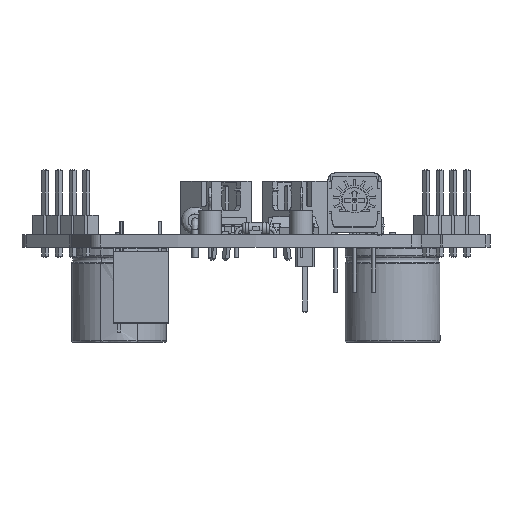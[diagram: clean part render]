
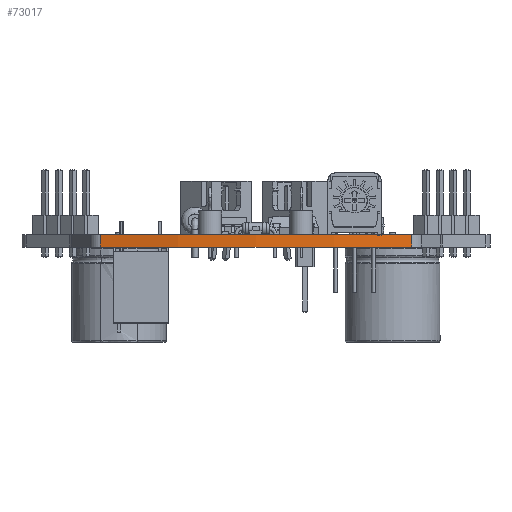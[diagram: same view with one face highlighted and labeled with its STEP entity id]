
A CAD part, left-side view. The second image highlights one B-rep face of the part: STEP entity #73017.
In plain terms, the highlighted cylindrical face has radius 85 mm (diameter 170 mm), a partial arc.
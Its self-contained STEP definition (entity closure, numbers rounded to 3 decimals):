
#67925 = PLANE('',#67926);
#67926 = AXIS2_PLACEMENT_3D('',#67927,#67928,#67929);
#67927 = CARTESIAN_POINT('',(75.31,-115.03,1.6));
#67928 = DIRECTION('',(-0.,-0.,-1.));
#67929 = DIRECTION('',(-1.,0.,0.));
#67979 = PLANE('',#67980);
#67980 = AXIS2_PLACEMENT_3D('',#67981,#67982,#67983);
#67981 = CARTESIAN_POINT('',(75.31,-115.03,0.));
#67982 = DIRECTION('',(-0.,-0.,-1.));
#67983 = DIRECTION('',(-1.,0.,0.));
#68497 = VERTEX_POINT('',#68498);
#68498 = CARTESIAN_POINT('',(47.44,-135.497,0.));
#68517 = CYLINDRICAL_SURFACE('',#68518,2.);
#68518 = AXIS2_PLACEMENT_3D('',#68519,#68520,#68521);
#68519 = CARTESIAN_POINT('',(49.381,-135.015,0.));
#68520 = DIRECTION('',(-0.,-0.,-1.));
#68521 = DIRECTION('',(1.,0.,-0.));
#68529 = EDGE_CURVE('',#68530,#68497,#68532,.T.);
#68530 = VERTEX_POINT('',#68531);
#68531 = CARTESIAN_POINT('',(47.44,-94.564,0.));
#68532 = SURFACE_CURVE('',#68533,(#68538,#68549),.PCURVE_S1.);
#68533 = CIRCLE('',#68534,85.);
#68534 = AXIS2_PLACEMENT_3D('',#68535,#68536,#68537);
#68535 = CARTESIAN_POINT('',(129.939,-115.03,0.));
#68536 = DIRECTION('',(0.,0.,1.));
#68537 = DIRECTION('',(1.,0.,-0.));
#68538 = PCURVE('',#67979,#68539);
#68539 = DEFINITIONAL_REPRESENTATION('',(#68540),#68548);
#68540 = ( BOUNDED_CURVE() B_SPLINE_CURVE(2,(#68541,#68542,#68543,#68544
    ,#68545,#68546,#68547),.UNSPECIFIED.,.T.,.F.) 
B_SPLINE_CURVE_WITH_KNOTS((1,2,2,2,2,1),(-2.094,0.,
    2.094,4.189,6.283,8.378),
.UNSPECIFIED.) CURVE() GEOMETRIC_REPRESENTATION_ITEM() 
RATIONAL_B_SPLINE_CURVE((1.,0.5,1.,0.5,1.,0.5,1.)) REPRESENTATION_ITEM(
  '') );
#68541 = CARTESIAN_POINT('',(-139.629,0.));
#68542 = CARTESIAN_POINT('',(-139.629,147.225));
#68543 = CARTESIAN_POINT('',(-12.129,73.612));
#68544 = CARTESIAN_POINT('',(115.371,0.));
#68545 = CARTESIAN_POINT('',(-12.129,-73.612));
#68546 = CARTESIAN_POINT('',(-139.629,-147.225));
#68547 = CARTESIAN_POINT('',(-139.629,0.));
#68548 = ( GEOMETRIC_REPRESENTATION_CONTEXT(2) 
PARAMETRIC_REPRESENTATION_CONTEXT() REPRESENTATION_CONTEXT('2D SPACE',''
  ) );
#68549 = PCURVE('',#68550,#68555);
#68550 = CYLINDRICAL_SURFACE('',#68551,85.);
#68551 = AXIS2_PLACEMENT_3D('',#68552,#68553,#68554);
#68552 = CARTESIAN_POINT('',(129.939,-115.03,0.));
#68553 = DIRECTION('',(-0.,-0.,-1.));
#68554 = DIRECTION('',(1.,0.,-0.));
#68555 = DEFINITIONAL_REPRESENTATION('',(#68556),#68560);
#68556 = LINE('',#68557,#68558);
#68557 = CARTESIAN_POINT('',(-0.,0.));
#68558 = VECTOR('',#68559,1.);
#68559 = DIRECTION('',(-1.,0.));
#68560 = ( GEOMETRIC_REPRESENTATION_CONTEXT(2) 
PARAMETRIC_REPRESENTATION_CONTEXT() REPRESENTATION_CONTEXT('2D SPACE',''
  ) );
#68583 = CYLINDRICAL_SURFACE('',#68584,2.);
#68584 = AXIS2_PLACEMENT_3D('',#68585,#68586,#68587);
#68585 = CARTESIAN_POINT('',(49.381,-95.046,0.));
#68586 = DIRECTION('',(-0.,-0.,-1.));
#68587 = DIRECTION('',(1.,0.,-0.));
#70702 = VERTEX_POINT('',#70703);
#70703 = CARTESIAN_POINT('',(47.44,-135.497,1.6));
#70729 = EDGE_CURVE('',#70730,#70702,#70732,.T.);
#70730 = VERTEX_POINT('',#70731);
#70731 = CARTESIAN_POINT('',(47.44,-94.564,1.6));
#70732 = SURFACE_CURVE('',#70733,(#70738,#70749),.PCURVE_S1.);
#70733 = CIRCLE('',#70734,85.);
#70734 = AXIS2_PLACEMENT_3D('',#70735,#70736,#70737);
#70735 = CARTESIAN_POINT('',(129.939,-115.03,1.6));
#70736 = DIRECTION('',(0.,0.,1.));
#70737 = DIRECTION('',(1.,0.,-0.));
#70738 = PCURVE('',#67925,#70739);
#70739 = DEFINITIONAL_REPRESENTATION('',(#70740),#70748);
#70740 = ( BOUNDED_CURVE() B_SPLINE_CURVE(2,(#70741,#70742,#70743,#70744
    ,#70745,#70746,#70747),.UNSPECIFIED.,.T.,.F.) 
B_SPLINE_CURVE_WITH_KNOTS((1,2,2,2,2,1),(-2.094,0.,
    2.094,4.189,6.283,8.378),
.UNSPECIFIED.) CURVE() GEOMETRIC_REPRESENTATION_ITEM() 
RATIONAL_B_SPLINE_CURVE((1.,0.5,1.,0.5,1.,0.5,1.)) REPRESENTATION_ITEM(
  '') );
#70741 = CARTESIAN_POINT('',(-139.629,0.));
#70742 = CARTESIAN_POINT('',(-139.629,147.225));
#70743 = CARTESIAN_POINT('',(-12.129,73.612));
#70744 = CARTESIAN_POINT('',(115.371,0.));
#70745 = CARTESIAN_POINT('',(-12.129,-73.612));
#70746 = CARTESIAN_POINT('',(-139.629,-147.225));
#70747 = CARTESIAN_POINT('',(-139.629,0.));
#70748 = ( GEOMETRIC_REPRESENTATION_CONTEXT(2) 
PARAMETRIC_REPRESENTATION_CONTEXT() REPRESENTATION_CONTEXT('2D SPACE',''
  ) );
#70749 = PCURVE('',#68550,#70750);
#70750 = DEFINITIONAL_REPRESENTATION('',(#70751),#70755);
#70751 = LINE('',#70752,#70753);
#70752 = CARTESIAN_POINT('',(-0.,-1.6));
#70753 = VECTOR('',#70754,1.);
#70754 = DIRECTION('',(-1.,0.));
#70755 = ( GEOMETRIC_REPRESENTATION_CONTEXT(2) 
PARAMETRIC_REPRESENTATION_CONTEXT() REPRESENTATION_CONTEXT('2D SPACE',''
  ) );
#72967 = EDGE_CURVE('',#68497,#70702,#72968,.T.);
#72968 = SURFACE_CURVE('',#72969,(#72973,#72980),.PCURVE_S1.);
#72969 = LINE('',#72970,#72971);
#72970 = CARTESIAN_POINT('',(47.44,-135.497,0.));
#72971 = VECTOR('',#72972,1.);
#72972 = DIRECTION('',(0.,0.,1.));
#72973 = PCURVE('',#68517,#72974);
#72974 = DEFINITIONAL_REPRESENTATION('',(#72975),#72979);
#72975 = LINE('',#72976,#72977);
#72976 = CARTESIAN_POINT('',(-3.385,0.));
#72977 = VECTOR('',#72978,1.);
#72978 = DIRECTION('',(-0.,-1.));
#72979 = ( GEOMETRIC_REPRESENTATION_CONTEXT(2) 
PARAMETRIC_REPRESENTATION_CONTEXT() REPRESENTATION_CONTEXT('2D SPACE',''
  ) );
#72980 = PCURVE('',#68550,#72981);
#72981 = DEFINITIONAL_REPRESENTATION('',(#72982),#72986);
#72982 = LINE('',#72983,#72984);
#72983 = CARTESIAN_POINT('',(-3.385,0.));
#72984 = VECTOR('',#72985,1.);
#72985 = DIRECTION('',(-0.,-1.));
#72986 = ( GEOMETRIC_REPRESENTATION_CONTEXT(2) 
PARAMETRIC_REPRESENTATION_CONTEXT() REPRESENTATION_CONTEXT('2D SPACE',''
  ) );
#73017 = ADVANCED_FACE('',(#73018),#68550,.T.);
#73018 = FACE_BOUND('',#73019,.F.);
#73019 = EDGE_LOOP('',(#73020,#73041,#73042,#73043));
#73020 = ORIENTED_EDGE('',*,*,#73021,.T.);
#73021 = EDGE_CURVE('',#68530,#70730,#73022,.T.);
#73022 = SURFACE_CURVE('',#73023,(#73027,#73034),.PCURVE_S1.);
#73023 = LINE('',#73024,#73025);
#73024 = CARTESIAN_POINT('',(47.44,-94.564,0.));
#73025 = VECTOR('',#73026,1.);
#73026 = DIRECTION('',(0.,0.,1.));
#73027 = PCURVE('',#68550,#73028);
#73028 = DEFINITIONAL_REPRESENTATION('',(#73029),#73033);
#73029 = LINE('',#73030,#73031);
#73030 = CARTESIAN_POINT('',(-2.898,0.));
#73031 = VECTOR('',#73032,1.);
#73032 = DIRECTION('',(-0.,-1.));
#73033 = ( GEOMETRIC_REPRESENTATION_CONTEXT(2) 
PARAMETRIC_REPRESENTATION_CONTEXT() REPRESENTATION_CONTEXT('2D SPACE',''
  ) );
#73034 = PCURVE('',#68583,#73035);
#73035 = DEFINITIONAL_REPRESENTATION('',(#73036),#73040);
#73036 = LINE('',#73037,#73038);
#73037 = CARTESIAN_POINT('',(-2.898,0.));
#73038 = VECTOR('',#73039,1.);
#73039 = DIRECTION('',(-0.,-1.));
#73040 = ( GEOMETRIC_REPRESENTATION_CONTEXT(2) 
PARAMETRIC_REPRESENTATION_CONTEXT() REPRESENTATION_CONTEXT('2D SPACE',''
  ) );
#73041 = ORIENTED_EDGE('',*,*,#70729,.T.);
#73042 = ORIENTED_EDGE('',*,*,#72967,.F.);
#73043 = ORIENTED_EDGE('',*,*,#68529,.F.);
